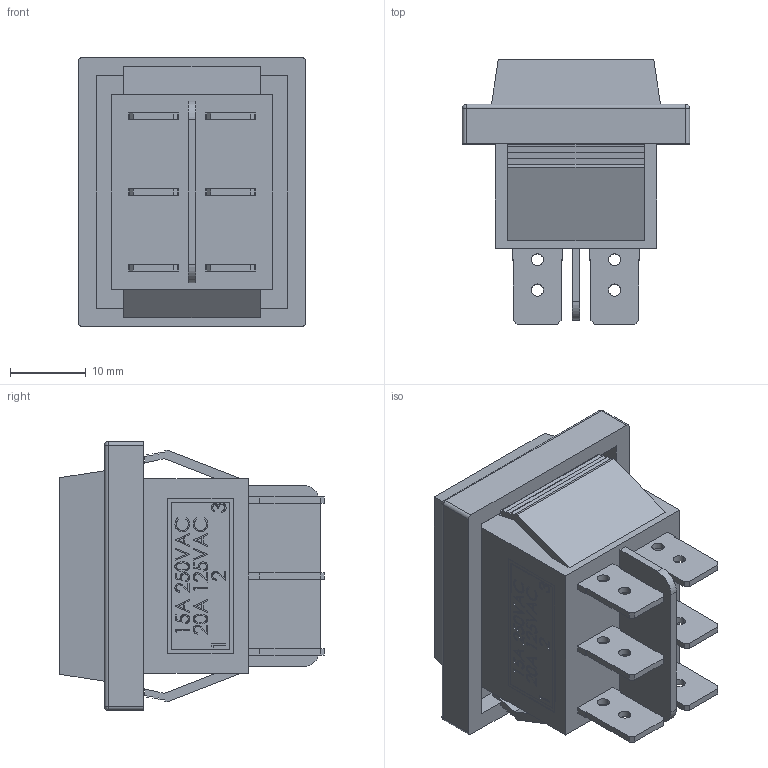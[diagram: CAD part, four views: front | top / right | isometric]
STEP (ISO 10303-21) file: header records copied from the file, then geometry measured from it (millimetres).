
FILE_DESCRIPTION (( 'STEP AP203' ), '1' );
FILE_NAME ('RS-203-1C-B.STEP', '2018-02-21T21:10:14', ( '' ), ( '' ), 'SwSTEP 2.0', 'SolidWorks 2012', '' );
FILE_SCHEMA (( 'CONFIG_CONTROL_DESIGN' ));
Length unit declared in the file: millimetre
Products named in the file (1): RS-203-1C-B
Bounding box: 30 x 34.9 x 35.45 mm (x, y, z)
Volume: 14452.9 mm3; surface area: 9752.9 mm2
Topology: 3 solids, 3 shells, 481 faces, 1269 edges, 838 vertices
Faces by surface type: plane 335, bspline 102, cylinder 40, sphere 4
Entity records: 21370 total; most frequent: CARTESIAN_POINT 9979, ORIENTED_EDGE 2530, DIRECTION 1899, EDGE_CURVE 1265, LINE 975, VECTOR 975, VERTEX_POINT 838, EDGE_LOOP 555
